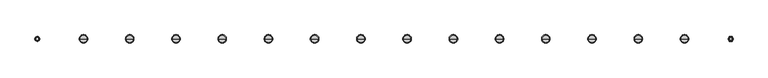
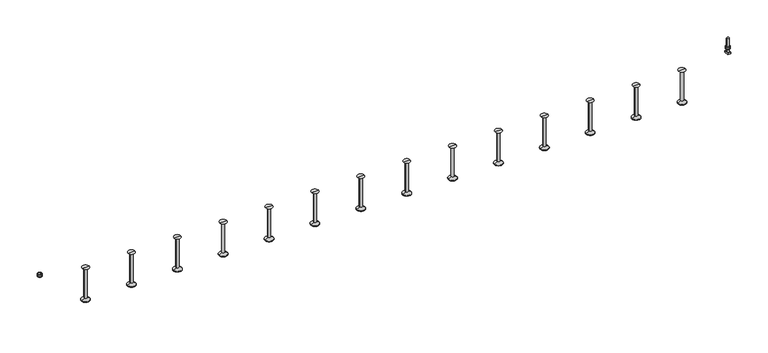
"""IFC4 building model written with IfcOpenShell, lengths in millimetres: fastener geometry, JXA(-PC) JORDAHL® toothed channels : JXA(-PC) L=3000 mm."""

from ifc_helpers import new_model, si_unit, point, frame, frame_2d, origin, place, context, project, spatial, polyline, circle_curve, trimmed, segment, composite_curve, outline, extrude, source, transform, mapped, element, save
from ifc_brep_helpers import plane_surface, cylinder_surface, revolved_surface, advanced_brep


def fastener_173d111a(model_context):
    return source(origin(), model_context, "Body", "SolidModel", [
        advanced_brep(
        [(2769.6666667, 0.0, -20.0), (2784.1666667, 0.0, -20.0), (2755.1666667, 0.0, -20.0), (2751.6666667, 0.0, -166.0), (2787.6666667, 0.0, -166.0), (2769.6666667, 0.0, -166.0), (2751.6666667, 0.0, -164.0), (2787.6666667, 0.0, -164.0), (2763.6666667, 0.0, -157.0717968), (2775.6666667, 0.0, -157.0717968), (2763.6666667, 0.0, -22.5), (2775.6666667, 0.0, -22.5)],
        [
            (0, 1),
            (1, 2, circle_curve(frame((2769.6666667, 0.0, -20.0), z_axis=(0.0, 0.0, 1.0), x_axis=(1.0, 0.0, 0.0)), 14.5)),
            (2, 0),
            (2, 1, circle_curve(frame((2769.6666667, 0.0, -20.0), z_axis=(0.0, 0.0, 1.0), x_axis=(1.0, 0.0, 0.0)), 14.5)),
            (3, 4, circle_curve(frame((2769.6666667, 0.0, -166.0), z_axis=(0.0, 0.0, -1.0), x_axis=(1.0, 0.0, 0.0)), 18.0)),
            (4, 5),
            (5, 3),
            (4, 3, circle_curve(frame((2769.6666667, 0.0, -166.0), z_axis=(0.0, 0.0, -1.0), x_axis=(1.0, 0.0, 0.0)), 18.0)),
            (6, 7, circle_curve(frame((2769.6666667, 0.0, -164.0), z_axis=(0.0, 0.0, -1.0), x_axis=(1.0, 0.0, 0.0)), 18.0)),
            (7, 4),
            (3, 6),
            (7, 6, circle_curve(frame((2769.6666667, 0.0, -164.0), z_axis=(0.0, 0.0, -1.0), x_axis=(1.0, 0.0, 0.0)), 18.0)),
            (8, 9, circle_curve(frame((2769.6666667, 0.0, -157.0717968), z_axis=(0.0, 0.0, -1.0), x_axis=(1.0, 0.0, 0.0)), 6.0)),
            (9, 7),
            (6, 8),
            (9, 8, circle_curve(frame((2769.6666667, 0.0, -157.0717968), z_axis=(0.0, 0.0, -1.0), x_axis=(1.0, 0.0, 0.0)), 6.0)),
            (10, 11, circle_curve(frame((2769.6666667, 0.0, -22.5), z_axis=(0.0, 0.0, -1.0), x_axis=(1.0, 0.0, 0.0)), 6.0)),
            (11, 9),
            (8, 10),
            (11, 10, circle_curve(frame((2769.6666667, 0.0, -22.5), z_axis=(0.0, 0.0, -1.0), x_axis=(1.0, 0.0, 0.0)), 6.0)),
            (1, 11),
            (10, 2),
        ],
        [
            plane_surface(frame((2769.6666667, 0.0, -20.0), z_axis=(0.0, 0.0, 1.0), x_axis=(1.0, 0.0, 0.0))),
            plane_surface(frame((2769.6666667, 0.0, -166.0), z_axis=(0.0, 0.0, -1.0), x_axis=(1.0, 0.0, 0.0))),
            cylinder_surface(frame((2769.6666667, 0.0, 2214.3150031), z_axis=(0.0, 0.0, 1.0), x_axis=(1.0, 0.0, 0.0)), 18.0),
            revolved_surface(polyline([(2787.6666667, 0.0, -164.0), (2775.6666667, 0.0, -157.0717968)]), (2769.6666667, 0.0, 2214.3150031), (0.0, 0.0, 1.0)),
            cylinder_surface(frame((2769.6666667, 0.0, 2214.3150031), z_axis=(0.0, 0.0, 1.0), x_axis=(1.0, 0.0, 0.0)), 6.0),
            revolved_surface(polyline([(2775.6666667, 0.0, -22.5), (2784.1666667, 0.0, -20.0)]), (2769.6666667, 0.0, 2214.3150031), (0.0, 0.0, 1.0)),
        ],
        [
            (0, [[1, 2, 3]]),
            (0, [[-3, 4, -1]]),
            (1, [[5, 6, 7]]),
            (1, [[8, -7, -6]]),
            (2, [[9, 10, -5, 11]]),
            (2, [[12, -11, -8, -10]]),
            (3, [[13, 14, -9, 15]]),
            (3, [[16, -15, -12, -14]]),
            (4, [[17, 18, -13, 19]]),
            (4, [[20, -19, -16, -18]]),
            (5, [[-2, 21, -17, 22]]),
            (5, [[-4, -22, -20, -21]]),
        ],
    ),
        advanced_brep(
        [(2574.3333333, 0.0, -20.0), (2588.8333333, 0.0, -20.0), (2559.8333333, 0.0, -20.0), (2556.3333333, 0.0, -166.0), (2592.3333333, 0.0, -166.0), (2574.3333333, 0.0, -166.0), (2556.3333333, 0.0, -164.0), (2592.3333333, 0.0, -164.0), (2568.3333333, 0.0, -157.0717968), (2580.3333333, 0.0, -157.0717968), (2568.3333333, 0.0, -22.5), (2580.3333333, 0.0, -22.5)],
        [
            (0, 1),
            (1, 2, circle_curve(frame((2574.3333333, 0.0, -20.0), z_axis=(0.0, 0.0, 1.0), x_axis=(1.0, 0.0, 0.0)), 14.5)),
            (2, 0),
            (2, 1, circle_curve(frame((2574.3333333, 0.0, -20.0), z_axis=(0.0, 0.0, 1.0), x_axis=(1.0, 0.0, 0.0)), 14.5)),
            (3, 4, circle_curve(frame((2574.3333333, 0.0, -166.0), z_axis=(0.0, 0.0, -1.0), x_axis=(1.0, 0.0, 0.0)), 18.0)),
            (4, 5),
            (5, 3),
            (4, 3, circle_curve(frame((2574.3333333, 0.0, -166.0), z_axis=(0.0, 0.0, -1.0), x_axis=(1.0, 0.0, 0.0)), 18.0)),
            (6, 7, circle_curve(frame((2574.3333333, 0.0, -164.0), z_axis=(0.0, 0.0, -1.0), x_axis=(1.0, 0.0, 0.0)), 18.0)),
            (7, 4),
            (3, 6),
            (7, 6, circle_curve(frame((2574.3333333, 0.0, -164.0), z_axis=(0.0, 0.0, -1.0), x_axis=(1.0, 0.0, 0.0)), 18.0)),
            (8, 9, circle_curve(frame((2574.3333333, 0.0, -157.0717968), z_axis=(0.0, 0.0, -1.0), x_axis=(1.0, 0.0, 0.0)), 6.0)),
            (9, 7),
            (6, 8),
            (9, 8, circle_curve(frame((2574.3333333, 0.0, -157.0717968), z_axis=(0.0, 0.0, -1.0), x_axis=(1.0, 0.0, 0.0)), 6.0)),
            (10, 11, circle_curve(frame((2574.3333333, 0.0, -22.5), z_axis=(0.0, 0.0, -1.0), x_axis=(1.0, 0.0, 0.0)), 6.0)),
            (11, 9),
            (8, 10),
            (11, 10, circle_curve(frame((2574.3333333, 0.0, -22.5), z_axis=(0.0, 0.0, -1.0), x_axis=(1.0, 0.0, 0.0)), 6.0)),
            (1, 11),
            (10, 2),
        ],
        [
            plane_surface(frame((2574.3333333, 0.0, -20.0), z_axis=(0.0, 0.0, 1.0), x_axis=(1.0, 0.0, 0.0))),
            plane_surface(frame((2574.3333333, 0.0, -166.0), z_axis=(0.0, 0.0, -1.0), x_axis=(1.0, 0.0, 0.0))),
            cylinder_surface(frame((2574.3333333, 0.0, 2214.3150031), z_axis=(0.0, 0.0, 1.0), x_axis=(1.0, 0.0, 0.0)), 18.0),
            revolved_surface(polyline([(2592.3333333, 0.0, -164.0), (2580.3333333, 0.0, -157.0717968)]), (2574.3333333, 0.0, 2214.3150031), (0.0, 0.0, 1.0)),
            cylinder_surface(frame((2574.3333333, 0.0, 2214.3150031), z_axis=(0.0, 0.0, 1.0), x_axis=(1.0, 0.0, 0.0)), 6.0),
            revolved_surface(polyline([(2580.3333333, 0.0, -22.5), (2588.8333333, 0.0, -20.0)]), (2574.3333333, 0.0, 2214.3150031), (0.0, 0.0, 1.0)),
        ],
        [
            (0, [[1, 2, 3]]),
            (0, [[-3, 4, -1]]),
            (1, [[5, 6, 7]]),
            (1, [[8, -7, -6]]),
            (2, [[9, 10, -5, 11]]),
            (2, [[12, -11, -8, -10]]),
            (3, [[13, 14, -9, 15]]),
            (3, [[16, -15, -12, -14]]),
            (4, [[17, 18, -13, 19]]),
            (4, [[20, -19, -16, -18]]),
            (5, [[-2, 21, -17, 22]]),
            (5, [[-4, -22, -20, -21]]),
        ],
    ),
        advanced_brep(
        [(2379.0, 0.0, -20.0), (2393.5, 0.0, -20.0), (2364.5, 0.0, -20.0), (2361.0, 0.0, -166.0), (2397.0, 0.0, -166.0), (2379.0, 0.0, -166.0), (2361.0, 0.0, -164.0), (2397.0, 0.0, -164.0), (2373.0, 0.0, -157.0717968), (2385.0, 0.0, -157.0717968), (2373.0, 0.0, -22.5), (2385.0, 0.0, -22.5)],
        [
            (0, 1),
            (1, 2, circle_curve(frame((2379.0, 0.0, -20.0), z_axis=(0.0, 0.0, 1.0), x_axis=(1.0, 0.0, 0.0)), 14.5)),
            (2, 0),
            (2, 1, circle_curve(frame((2379.0, 0.0, -20.0), z_axis=(0.0, 0.0, 1.0), x_axis=(1.0, 0.0, 0.0)), 14.5)),
            (3, 4, circle_curve(frame((2379.0, 0.0, -166.0), z_axis=(0.0, 0.0, -1.0), x_axis=(1.0, 0.0, 0.0)), 18.0)),
            (4, 5),
            (5, 3),
            (4, 3, circle_curve(frame((2379.0, 0.0, -166.0), z_axis=(0.0, 0.0, -1.0), x_axis=(1.0, 0.0, 0.0)), 18.0)),
            (6, 7, circle_curve(frame((2379.0, 0.0, -164.0), z_axis=(0.0, 0.0, -1.0), x_axis=(1.0, 0.0, 0.0)), 18.0)),
            (7, 4),
            (3, 6),
            (7, 6, circle_curve(frame((2379.0, 0.0, -164.0), z_axis=(0.0, 0.0, -1.0), x_axis=(1.0, 0.0, 0.0)), 18.0)),
            (8, 9, circle_curve(frame((2379.0, 0.0, -157.0717968), z_axis=(0.0, 0.0, -1.0), x_axis=(1.0, 0.0, 0.0)), 6.0)),
            (9, 7),
            (6, 8),
            (9, 8, circle_curve(frame((2379.0, 0.0, -157.0717968), z_axis=(0.0, 0.0, -1.0), x_axis=(1.0, 0.0, 0.0)), 6.0)),
            (10, 11, circle_curve(frame((2379.0, 0.0, -22.5), z_axis=(0.0, 0.0, -1.0), x_axis=(1.0, 0.0, 0.0)), 6.0)),
            (11, 9),
            (8, 10),
            (11, 10, circle_curve(frame((2379.0, 0.0, -22.5), z_axis=(0.0, 0.0, -1.0), x_axis=(1.0, 0.0, 0.0)), 6.0)),
            (1, 11),
            (10, 2),
        ],
        [
            plane_surface(frame((2379.0, 0.0, -20.0), z_axis=(0.0, 0.0, 1.0), x_axis=(1.0, 0.0, 0.0))),
            plane_surface(frame((2379.0, 0.0, -166.0), z_axis=(0.0, 0.0, -1.0), x_axis=(1.0, 0.0, 0.0))),
            cylinder_surface(frame((2379.0, 0.0, 2214.3150031), z_axis=(0.0, 0.0, 1.0), x_axis=(1.0, 0.0, 0.0)), 18.0),
            revolved_surface(polyline([(2397.0, 0.0, -164.0), (2385.0, 0.0, -157.0717968)]), (2379.0, 0.0, 2214.3150031), (0.0, 0.0, 1.0)),
            cylinder_surface(frame((2379.0, 0.0, 2214.3150031), z_axis=(0.0, 0.0, 1.0), x_axis=(1.0, 0.0, 0.0)), 6.0),
            revolved_surface(polyline([(2385.0, 0.0, -22.5), (2393.5, 0.0, -20.0)]), (2379.0, 0.0, 2214.3150031), (0.0, 0.0, 1.0)),
        ],
        [
            (0, [[1, 2, 3]]),
            (0, [[-3, 4, -1]]),
            (1, [[5, 6, 7]]),
            (1, [[8, -7, -6]]),
            (2, [[9, 10, -5, 11]]),
            (2, [[12, -11, -8, -10]]),
            (3, [[13, 14, -9, 15]]),
            (3, [[16, -15, -12, -14]]),
            (4, [[17, 18, -13, 19]]),
            (4, [[20, -19, -16, -18]]),
            (5, [[-2, 21, -17, 22]]),
            (5, [[-4, -22, -20, -21]]),
        ],
    ),
        advanced_brep(
        [(2183.6666667, 0.0, -20.0), (2198.1666667, 0.0, -20.0), (2169.1666667, 0.0, -20.0), (2165.6666667, 0.0, -166.0), (2201.6666667, 0.0, -166.0), (2183.6666667, 0.0, -166.0), (2165.6666667, 0.0, -164.0), (2201.6666667, 0.0, -164.0), (2177.6666667, 0.0, -157.0717968), (2189.6666667, 0.0, -157.0717968), (2177.6666667, 0.0, -22.5), (2189.6666667, 0.0, -22.5)],
        [
            (0, 1),
            (1, 2, circle_curve(frame((2183.6666667, 0.0, -20.0), z_axis=(0.0, 0.0, 1.0), x_axis=(1.0, 0.0, 0.0)), 14.5)),
            (2, 0),
            (2, 1, circle_curve(frame((2183.6666667, 0.0, -20.0), z_axis=(0.0, 0.0, 1.0), x_axis=(1.0, 0.0, 0.0)), 14.5)),
            (3, 4, circle_curve(frame((2183.6666667, 0.0, -166.0), z_axis=(0.0, 0.0, -1.0), x_axis=(1.0, 0.0, 0.0)), 18.0)),
            (4, 5),
            (5, 3),
            (4, 3, circle_curve(frame((2183.6666667, 0.0, -166.0), z_axis=(0.0, 0.0, -1.0), x_axis=(1.0, 0.0, 0.0)), 18.0)),
            (6, 7, circle_curve(frame((2183.6666667, 0.0, -164.0), z_axis=(0.0, 0.0, -1.0), x_axis=(1.0, 0.0, 0.0)), 18.0)),
            (7, 4),
            (3, 6),
            (7, 6, circle_curve(frame((2183.6666667, 0.0, -164.0), z_axis=(0.0, 0.0, -1.0), x_axis=(1.0, 0.0, 0.0)), 18.0)),
            (8, 9, circle_curve(frame((2183.6666667, 0.0, -157.0717968), z_axis=(0.0, 0.0, -1.0), x_axis=(1.0, 0.0, 0.0)), 6.0)),
            (9, 7),
            (6, 8),
            (9, 8, circle_curve(frame((2183.6666667, 0.0, -157.0717968), z_axis=(0.0, 0.0, -1.0), x_axis=(1.0, 0.0, 0.0)), 6.0)),
            (10, 11, circle_curve(frame((2183.6666667, 0.0, -22.5), z_axis=(0.0, 0.0, -1.0), x_axis=(1.0, 0.0, 0.0)), 6.0)),
            (11, 9),
            (8, 10),
            (11, 10, circle_curve(frame((2183.6666667, 0.0, -22.5), z_axis=(0.0, 0.0, -1.0), x_axis=(1.0, 0.0, 0.0)), 6.0)),
            (1, 11),
            (10, 2),
        ],
        [
            plane_surface(frame((2183.6666667, 0.0, -20.0), z_axis=(0.0, 0.0, 1.0), x_axis=(1.0, 0.0, 0.0))),
            plane_surface(frame((2183.6666667, 0.0, -166.0), z_axis=(0.0, 0.0, -1.0), x_axis=(1.0, 0.0, 0.0))),
            cylinder_surface(frame((2183.6666667, 0.0, 2214.3150031), z_axis=(0.0, 0.0, 1.0), x_axis=(1.0, 0.0, 0.0)), 18.0),
            revolved_surface(polyline([(2201.6666667, 0.0, -164.0), (2189.6666667, 0.0, -157.0717968)]), (2183.6666667, 0.0, 2214.3150031), (0.0, 0.0, 1.0)),
            cylinder_surface(frame((2183.6666667, 0.0, 2214.3150031), z_axis=(0.0, 0.0, 1.0), x_axis=(1.0, 0.0, 0.0)), 6.0),
            revolved_surface(polyline([(2189.6666667, 0.0, -22.5), (2198.1666667, 0.0, -20.0)]), (2183.6666667, 0.0, 2214.3150031), (0.0, 0.0, 1.0)),
        ],
        [
            (0, [[1, 2, 3]]),
            (0, [[-3, 4, -1]]),
            (1, [[5, 6, 7]]),
            (1, [[8, -7, -6]]),
            (2, [[9, 10, -5, 11]]),
            (2, [[12, -11, -8, -10]]),
            (3, [[13, 14, -9, 15]]),
            (3, [[16, -15, -12, -14]]),
            (4, [[17, 18, -13, 19]]),
            (4, [[20, -19, -16, -18]]),
            (5, [[-2, 21, -17, 22]]),
            (5, [[-4, -22, -20, -21]]),
        ],
    ),
        advanced_brep(
        [(1988.3333333, 0.0, -20.0), (2002.8333333, 0.0, -20.0), (1973.8333333, 0.0, -20.0), (1970.3333333, 0.0, -166.0), (2006.3333333, 0.0, -166.0), (1988.3333333, 0.0, -166.0), (1970.3333333, 0.0, -164.0), (2006.3333333, 0.0, -164.0), (1982.3333333, 0.0, -157.0717968), (1994.3333333, 0.0, -157.0717968), (1982.3333333, 0.0, -22.5), (1994.3333333, 0.0, -22.5)],
        [
            (0, 1),
            (1, 2, circle_curve(frame((1988.3333333, 0.0, -20.0), z_axis=(0.0, 0.0, 1.0), x_axis=(1.0, 0.0, 0.0)), 14.5)),
            (2, 0),
            (2, 1, circle_curve(frame((1988.3333333, 0.0, -20.0), z_axis=(0.0, 0.0, 1.0), x_axis=(1.0, 0.0, 0.0)), 14.5)),
            (3, 4, circle_curve(frame((1988.3333333, 0.0, -166.0), z_axis=(0.0, 0.0, -1.0), x_axis=(1.0, 0.0, 0.0)), 18.0)),
            (4, 5),
            (5, 3),
            (4, 3, circle_curve(frame((1988.3333333, 0.0, -166.0), z_axis=(0.0, 0.0, -1.0), x_axis=(1.0, 0.0, 0.0)), 18.0)),
            (6, 7, circle_curve(frame((1988.3333333, 0.0, -164.0), z_axis=(0.0, 0.0, -1.0), x_axis=(1.0, 0.0, 0.0)), 18.0)),
            (7, 4),
            (3, 6),
            (7, 6, circle_curve(frame((1988.3333333, 0.0, -164.0), z_axis=(0.0, 0.0, -1.0), x_axis=(1.0, 0.0, 0.0)), 18.0)),
            (8, 9, circle_curve(frame((1988.3333333, 0.0, -157.0717968), z_axis=(0.0, 0.0, -1.0), x_axis=(1.0, 0.0, 0.0)), 6.0)),
            (9, 7),
            (6, 8),
            (9, 8, circle_curve(frame((1988.3333333, 0.0, -157.0717968), z_axis=(0.0, 0.0, -1.0), x_axis=(1.0, 0.0, 0.0)), 6.0)),
            (10, 11, circle_curve(frame((1988.3333333, 0.0, -22.5), z_axis=(0.0, 0.0, -1.0), x_axis=(1.0, 0.0, 0.0)), 6.0)),
            (11, 9),
            (8, 10),
            (11, 10, circle_curve(frame((1988.3333333, 0.0, -22.5), z_axis=(0.0, 0.0, -1.0), x_axis=(1.0, 0.0, 0.0)), 6.0)),
            (1, 11),
            (10, 2),
        ],
        [
            plane_surface(frame((1988.3333333, 0.0, -20.0), z_axis=(0.0, 0.0, 1.0), x_axis=(1.0, 0.0, 0.0))),
            plane_surface(frame((1988.3333333, 0.0, -166.0), z_axis=(0.0, 0.0, -1.0), x_axis=(1.0, 0.0, 0.0))),
            cylinder_surface(frame((1988.3333333, 0.0, 2214.3150031), z_axis=(0.0, 0.0, 1.0), x_axis=(1.0, 0.0, 0.0)), 18.0),
            revolved_surface(polyline([(2006.3333333, 0.0, -164.0), (1994.3333333, 0.0, -157.0717968)]), (1988.3333333, 0.0, 2214.3150031), (0.0, 0.0, 1.0)),
            cylinder_surface(frame((1988.3333333, 0.0, 2214.3150031), z_axis=(0.0, 0.0, 1.0), x_axis=(1.0, 0.0, 0.0)), 6.0),
            revolved_surface(polyline([(1994.3333333, 0.0, -22.5), (2002.8333333, 0.0, -20.0)]), (1988.3333333, 0.0, 2214.3150031), (0.0, 0.0, 1.0)),
        ],
        [
            (0, [[1, 2, 3]]),
            (0, [[-3, 4, -1]]),
            (1, [[5, 6, 7]]),
            (1, [[8, -7, -6]]),
            (2, [[9, 10, -5, 11]]),
            (2, [[12, -11, -8, -10]]),
            (3, [[13, 14, -9, 15]]),
            (3, [[16, -15, -12, -14]]),
            (4, [[17, 18, -13, 19]]),
            (4, [[20, -19, -16, -18]]),
            (5, [[-2, 21, -17, 22]]),
            (5, [[-4, -22, -20, -21]]),
        ],
    ),
        advanced_brep(
        [(1793.0, 0.0, -20.0), (1807.5, 0.0, -20.0), (1778.5, 0.0, -20.0), (1775.0, 0.0, -166.0), (1811.0, 0.0, -166.0), (1793.0, 0.0, -166.0), (1775.0, 0.0, -164.0), (1811.0, 0.0, -164.0), (1787.0, 0.0, -157.0717968), (1799.0, 0.0, -157.0717968), (1787.0, 0.0, -22.5), (1799.0, 0.0, -22.5)],
        [
            (0, 1),
            (1, 2, circle_curve(frame((1793.0, 0.0, -20.0), z_axis=(0.0, 0.0, 1.0), x_axis=(1.0, 0.0, 0.0)), 14.5)),
            (2, 0),
            (2, 1, circle_curve(frame((1793.0, 0.0, -20.0), z_axis=(0.0, 0.0, 1.0), x_axis=(1.0, 0.0, 0.0)), 14.5)),
            (3, 4, circle_curve(frame((1793.0, 0.0, -166.0), z_axis=(0.0, 0.0, -1.0), x_axis=(1.0, 0.0, 0.0)), 18.0)),
            (4, 5),
            (5, 3),
            (4, 3, circle_curve(frame((1793.0, 0.0, -166.0), z_axis=(0.0, 0.0, -1.0), x_axis=(1.0, 0.0, 0.0)), 18.0)),
            (6, 7, circle_curve(frame((1793.0, 0.0, -164.0), z_axis=(0.0, 0.0, -1.0), x_axis=(1.0, 0.0, 0.0)), 18.0)),
            (7, 4),
            (3, 6),
            (7, 6, circle_curve(frame((1793.0, 0.0, -164.0), z_axis=(0.0, 0.0, -1.0), x_axis=(1.0, 0.0, 0.0)), 18.0)),
            (8, 9, circle_curve(frame((1793.0, 0.0, -157.0717968), z_axis=(0.0, 0.0, -1.0), x_axis=(1.0, 0.0, 0.0)), 6.0)),
            (9, 7),
            (6, 8),
            (9, 8, circle_curve(frame((1793.0, 0.0, -157.0717968), z_axis=(0.0, 0.0, -1.0), x_axis=(1.0, 0.0, 0.0)), 6.0)),
            (10, 11, circle_curve(frame((1793.0, 0.0, -22.5), z_axis=(0.0, 0.0, -1.0), x_axis=(1.0, 0.0, 0.0)), 6.0)),
            (11, 9),
            (8, 10),
            (11, 10, circle_curve(frame((1793.0, 0.0, -22.5), z_axis=(0.0, 0.0, -1.0), x_axis=(1.0, 0.0, 0.0)), 6.0)),
            (1, 11),
            (10, 2),
        ],
        [
            plane_surface(frame((1793.0, 0.0, -20.0), z_axis=(0.0, 0.0, 1.0), x_axis=(1.0, 0.0, 0.0))),
            plane_surface(frame((1793.0, 0.0, -166.0), z_axis=(0.0, 0.0, -1.0), x_axis=(1.0, 0.0, 0.0))),
            cylinder_surface(frame((1793.0, 0.0, 2214.3150031), z_axis=(0.0, 0.0, 1.0), x_axis=(1.0, 0.0, 0.0)), 18.0),
            revolved_surface(polyline([(1811.0, 0.0, -164.0), (1799.0, 0.0, -157.0717968)]), (1793.0, 0.0, 2214.3150031), (0.0, 0.0, 1.0)),
            cylinder_surface(frame((1793.0, 0.0, 2214.3150031), z_axis=(0.0, 0.0, 1.0), x_axis=(1.0, 0.0, 0.0)), 6.0),
            revolved_surface(polyline([(1799.0, 0.0, -22.5), (1807.5, 0.0, -20.0)]), (1793.0, 0.0, 2214.3150031), (0.0, 0.0, 1.0)),
        ],
        [
            (0, [[1, 2, 3]]),
            (0, [[-3, 4, -1]]),
            (1, [[5, 6, 7]]),
            (1, [[8, -7, -6]]),
            (2, [[9, 10, -5, 11]]),
            (2, [[12, -11, -8, -10]]),
            (3, [[13, 14, -9, 15]]),
            (3, [[16, -15, -12, -14]]),
            (4, [[17, 18, -13, 19]]),
            (4, [[20, -19, -16, -18]]),
            (5, [[-2, 21, -17, 22]]),
            (5, [[-4, -22, -20, -21]]),
        ],
    ),
        advanced_brep(
        [(1597.6666667, 0.0, -20.0), (1612.1666667, 0.0, -20.0), (1583.1666667, 0.0, -20.0), (1579.6666667, 0.0, -166.0), (1615.6666667, 0.0, -166.0), (1597.6666667, 0.0, -166.0), (1579.6666667, 0.0, -164.0), (1615.6666667, 0.0, -164.0), (1591.6666667, 0.0, -157.0717968), (1603.6666667, 0.0, -157.0717968), (1591.6666667, 0.0, -22.5), (1603.6666667, 0.0, -22.5)],
        [
            (0, 1),
            (1, 2, circle_curve(frame((1597.6666667, 0.0, -20.0), z_axis=(0.0, 0.0, 1.0), x_axis=(1.0, 0.0, 0.0)), 14.5)),
            (2, 0),
            (2, 1, circle_curve(frame((1597.6666667, 0.0, -20.0), z_axis=(0.0, 0.0, 1.0), x_axis=(1.0, 0.0, 0.0)), 14.5)),
            (3, 4, circle_curve(frame((1597.6666667, 0.0, -166.0), z_axis=(0.0, 0.0, -1.0), x_axis=(1.0, 0.0, 0.0)), 18.0)),
            (4, 5),
            (5, 3),
            (4, 3, circle_curve(frame((1597.6666667, 0.0, -166.0), z_axis=(0.0, 0.0, -1.0), x_axis=(1.0, 0.0, 0.0)), 18.0)),
            (6, 7, circle_curve(frame((1597.6666667, 0.0, -164.0), z_axis=(0.0, 0.0, -1.0), x_axis=(1.0, 0.0, 0.0)), 18.0)),
            (7, 4),
            (3, 6),
            (7, 6, circle_curve(frame((1597.6666667, 0.0, -164.0), z_axis=(0.0, 0.0, -1.0), x_axis=(1.0, 0.0, 0.0)), 18.0)),
            (8, 9, circle_curve(frame((1597.6666667, 0.0, -157.0717968), z_axis=(0.0, 0.0, -1.0), x_axis=(1.0, 0.0, 0.0)), 6.0)),
            (9, 7),
            (6, 8),
            (9, 8, circle_curve(frame((1597.6666667, 0.0, -157.0717968), z_axis=(0.0, 0.0, -1.0), x_axis=(1.0, 0.0, 0.0)), 6.0)),
            (10, 11, circle_curve(frame((1597.6666667, 0.0, -22.5), z_axis=(0.0, 0.0, -1.0), x_axis=(1.0, 0.0, 0.0)), 6.0)),
            (11, 9),
            (8, 10),
            (11, 10, circle_curve(frame((1597.6666667, 0.0, -22.5), z_axis=(0.0, 0.0, -1.0), x_axis=(1.0, 0.0, 0.0)), 6.0)),
            (1, 11),
            (10, 2),
        ],
        [
            plane_surface(frame((1597.6666667, 0.0, -20.0), z_axis=(0.0, 0.0, 1.0), x_axis=(1.0, 0.0, 0.0))),
            plane_surface(frame((1597.6666667, 0.0, -166.0), z_axis=(0.0, 0.0, -1.0), x_axis=(1.0, 0.0, 0.0))),
            cylinder_surface(frame((1597.6666667, 0.0, 2214.3150031), z_axis=(0.0, 0.0, 1.0), x_axis=(1.0, 0.0, 0.0)), 18.0),
            revolved_surface(polyline([(1615.6666667, 0.0, -164.0), (1603.6666667, 0.0, -157.0717968)]), (1597.6666667, 0.0, 2214.3150031), (0.0, 0.0, 1.0)),
            cylinder_surface(frame((1597.6666667, 0.0, 2214.3150031), z_axis=(0.0, 0.0, 1.0), x_axis=(1.0, 0.0, 0.0)), 6.0),
            revolved_surface(polyline([(1603.6666667, 0.0, -22.5), (1612.1666667, 0.0, -20.0)]), (1597.6666667, 0.0, 2214.3150031), (0.0, 0.0, 1.0)),
        ],
        [
            (0, [[1, 2, 3]]),
            (0, [[-3, 4, -1]]),
            (1, [[5, 6, 7]]),
            (1, [[8, -7, -6]]),
            (2, [[9, 10, -5, 11]]),
            (2, [[12, -11, -8, -10]]),
            (3, [[13, 14, -9, 15]]),
            (3, [[16, -15, -12, -14]]),
            (4, [[17, 18, -13, 19]]),
            (4, [[20, -19, -16, -18]]),
            (5, [[-2, 21, -17, 22]]),
            (5, [[-4, -22, -20, -21]]),
        ],
    ),
        advanced_brep(
        [(1402.3333333, 0.0, -20.0), (1416.8333333, 0.0, -20.0), (1387.8333333, 0.0, -20.0), (1384.3333333, 0.0, -166.0), (1420.3333333, 0.0, -166.0), (1402.3333333, 0.0, -166.0), (1384.3333333, 0.0, -164.0), (1420.3333333, 0.0, -164.0), (1396.3333333, 0.0, -157.0717968), (1408.3333333, 0.0, -157.0717968), (1396.3333333, 0.0, -22.5), (1408.3333333, 0.0, -22.5)],
        [
            (0, 1),
            (1, 2, circle_curve(frame((1402.3333333, 0.0, -20.0), z_axis=(0.0, 0.0, 1.0), x_axis=(1.0, 0.0, 0.0)), 14.5)),
            (2, 0),
            (2, 1, circle_curve(frame((1402.3333333, 0.0, -20.0), z_axis=(0.0, 0.0, 1.0), x_axis=(1.0, 0.0, 0.0)), 14.5)),
            (3, 4, circle_curve(frame((1402.3333333, 0.0, -166.0), z_axis=(0.0, 0.0, -1.0), x_axis=(1.0, 0.0, 0.0)), 18.0)),
            (4, 5),
            (5, 3),
            (4, 3, circle_curve(frame((1402.3333333, 0.0, -166.0), z_axis=(0.0, 0.0, -1.0), x_axis=(1.0, 0.0, 0.0)), 18.0)),
            (6, 7, circle_curve(frame((1402.3333333, 0.0, -164.0), z_axis=(0.0, 0.0, -1.0), x_axis=(1.0, 0.0, 0.0)), 18.0)),
            (7, 4),
            (3, 6),
            (7, 6, circle_curve(frame((1402.3333333, 0.0, -164.0), z_axis=(0.0, 0.0, -1.0), x_axis=(1.0, 0.0, 0.0)), 18.0)),
            (8, 9, circle_curve(frame((1402.3333333, 0.0, -157.0717968), z_axis=(0.0, 0.0, -1.0), x_axis=(1.0, 0.0, 0.0)), 6.0)),
            (9, 7),
            (6, 8),
            (9, 8, circle_curve(frame((1402.3333333, 0.0, -157.0717968), z_axis=(0.0, 0.0, -1.0), x_axis=(1.0, 0.0, 0.0)), 6.0)),
            (10, 11, circle_curve(frame((1402.3333333, 0.0, -22.5), z_axis=(0.0, 0.0, -1.0), x_axis=(1.0, 0.0, 0.0)), 6.0)),
            (11, 9),
            (8, 10),
            (11, 10, circle_curve(frame((1402.3333333, 0.0, -22.5), z_axis=(0.0, 0.0, -1.0), x_axis=(1.0, 0.0, 0.0)), 6.0)),
            (1, 11),
            (10, 2),
        ],
        [
            plane_surface(frame((1402.3333333, 0.0, -20.0), z_axis=(0.0, 0.0, 1.0), x_axis=(1.0, 0.0, 0.0))),
            plane_surface(frame((1402.3333333, 0.0, -166.0), z_axis=(0.0, 0.0, -1.0), x_axis=(1.0, 0.0, 0.0))),
            cylinder_surface(frame((1402.3333333, 0.0, 2214.3150031), z_axis=(0.0, 0.0, 1.0), x_axis=(1.0, 0.0, 0.0)), 18.0),
            revolved_surface(polyline([(1420.3333333, 0.0, -164.0), (1408.3333333, 0.0, -157.0717968)]), (1402.3333333, 0.0, 2214.3150031), (0.0, 0.0, 1.0)),
            cylinder_surface(frame((1402.3333333, 0.0, 2214.3150031), z_axis=(0.0, 0.0, 1.0), x_axis=(1.0, 0.0, 0.0)), 6.0),
            revolved_surface(polyline([(1408.3333333, 0.0, -22.5), (1416.8333333, 0.0, -20.0)]), (1402.3333333, 0.0, 2214.3150031), (0.0, 0.0, 1.0)),
        ],
        [
            (0, [[1, 2, 3]]),
            (0, [[-3, 4, -1]]),
            (1, [[5, 6, 7]]),
            (1, [[8, -7, -6]]),
            (2, [[9, 10, -5, 11]]),
            (2, [[12, -11, -8, -10]]),
            (3, [[13, 14, -9, 15]]),
            (3, [[16, -15, -12, -14]]),
            (4, [[17, 18, -13, 19]]),
            (4, [[20, -19, -16, -18]]),
            (5, [[-2, 21, -17, 22]]),
            (5, [[-4, -22, -20, -21]]),
        ],
    ),
        advanced_brep(
        [(1207.0, 0.0, -20.0), (1221.5, 0.0, -20.0), (1192.5, 0.0, -20.0), (1189.0, 0.0, -166.0), (1225.0, 0.0, -166.0), (1207.0, 0.0, -166.0), (1189.0, 0.0, -164.0), (1225.0, 0.0, -164.0), (1201.0, 0.0, -157.0717968), (1213.0, 0.0, -157.0717968), (1201.0, 0.0, -22.5), (1213.0, 0.0, -22.5)],
        [
            (0, 1),
            (1, 2, circle_curve(frame((1207.0, 0.0, -20.0), z_axis=(0.0, 0.0, 1.0), x_axis=(1.0, 0.0, 0.0)), 14.5)),
            (2, 0),
            (2, 1, circle_curve(frame((1207.0, 0.0, -20.0), z_axis=(0.0, 0.0, 1.0), x_axis=(1.0, 0.0, 0.0)), 14.5)),
            (3, 4, circle_curve(frame((1207.0, 0.0, -166.0), z_axis=(0.0, 0.0, -1.0), x_axis=(1.0, 0.0, 0.0)), 18.0)),
            (4, 5),
            (5, 3),
            (4, 3, circle_curve(frame((1207.0, 0.0, -166.0), z_axis=(0.0, 0.0, -1.0), x_axis=(1.0, 0.0, 0.0)), 18.0)),
            (6, 7, circle_curve(frame((1207.0, 0.0, -164.0), z_axis=(0.0, 0.0, -1.0), x_axis=(1.0, 0.0, 0.0)), 18.0)),
            (7, 4),
            (3, 6),
            (7, 6, circle_curve(frame((1207.0, 0.0, -164.0), z_axis=(0.0, 0.0, -1.0), x_axis=(1.0, 0.0, 0.0)), 18.0)),
            (8, 9, circle_curve(frame((1207.0, 0.0, -157.0717968), z_axis=(0.0, 0.0, -1.0), x_axis=(1.0, 0.0, 0.0)), 6.0)),
            (9, 7),
            (6, 8),
            (9, 8, circle_curve(frame((1207.0, 0.0, -157.0717968), z_axis=(0.0, 0.0, -1.0), x_axis=(1.0, 0.0, 0.0)), 6.0)),
            (10, 11, circle_curve(frame((1207.0, 0.0, -22.5), z_axis=(0.0, 0.0, -1.0), x_axis=(1.0, 0.0, 0.0)), 6.0)),
            (11, 9),
            (8, 10),
            (11, 10, circle_curve(frame((1207.0, 0.0, -22.5), z_axis=(0.0, 0.0, -1.0), x_axis=(1.0, 0.0, 0.0)), 6.0)),
            (1, 11),
            (10, 2),
        ],
        [
            plane_surface(frame((1207.0, 0.0, -20.0), z_axis=(0.0, 0.0, 1.0), x_axis=(1.0, 0.0, 0.0))),
            plane_surface(frame((1207.0, 0.0, -166.0), z_axis=(0.0, 0.0, -1.0), x_axis=(1.0, 0.0, 0.0))),
            cylinder_surface(frame((1207.0, 0.0, 2214.3150031), z_axis=(0.0, 0.0, 1.0), x_axis=(1.0, 0.0, 0.0)), 18.0),
            revolved_surface(polyline([(1225.0, 0.0, -164.0), (1213.0, 0.0, -157.0717968)]), (1207.0, 0.0, 2214.3150031), (0.0, 0.0, 1.0)),
            cylinder_surface(frame((1207.0, 0.0, 2214.3150031), z_axis=(0.0, 0.0, 1.0), x_axis=(1.0, 0.0, 0.0)), 6.0),
            revolved_surface(polyline([(1213.0, 0.0, -22.5), (1221.5, 0.0, -20.0)]), (1207.0, 0.0, 2214.3150031), (0.0, 0.0, 1.0)),
        ],
        [
            (0, [[1, 2, 3]]),
            (0, [[-3, 4, -1]]),
            (1, [[5, 6, 7]]),
            (1, [[8, -7, -6]]),
            (2, [[9, 10, -5, 11]]),
            (2, [[12, -11, -8, -10]]),
            (3, [[13, 14, -9, 15]]),
            (3, [[16, -15, -12, -14]]),
            (4, [[17, 18, -13, 19]]),
            (4, [[20, -19, -16, -18]]),
            (5, [[-2, 21, -17, 22]]),
            (5, [[-4, -22, -20, -21]]),
        ],
    ),
        advanced_brep(
        [(1011.6666667, 0.0, -20.0), (1026.1666667, 0.0, -20.0), (997.1666667, 0.0, -20.0), (993.6666667, 0.0, -166.0), (1029.6666667, 0.0, -166.0), (1011.6666667, 0.0, -166.0), (993.6666667, 0.0, -164.0), (1029.6666667, 0.0, -164.0), (1005.6666667, 0.0, -157.0717968), (1017.6666667, 0.0, -157.0717968), (1005.6666667, 0.0, -22.5), (1017.6666667, 0.0, -22.5)],
        [
            (0, 1),
            (1, 2, circle_curve(frame((1011.6666667, 0.0, -20.0), z_axis=(0.0, 0.0, 1.0), x_axis=(1.0, 0.0, 0.0)), 14.5)),
            (2, 0),
            (2, 1, circle_curve(frame((1011.6666667, 0.0, -20.0), z_axis=(0.0, 0.0, 1.0), x_axis=(1.0, 0.0, 0.0)), 14.5)),
            (3, 4, circle_curve(frame((1011.6666667, 0.0, -166.0), z_axis=(0.0, 0.0, -1.0), x_axis=(1.0, 0.0, 0.0)), 18.0)),
            (4, 5),
            (5, 3),
            (4, 3, circle_curve(frame((1011.6666667, 0.0, -166.0), z_axis=(0.0, 0.0, -1.0), x_axis=(1.0, 0.0, 0.0)), 18.0)),
            (6, 7, circle_curve(frame((1011.6666667, 0.0, -164.0), z_axis=(0.0, 0.0, -1.0), x_axis=(1.0, 0.0, 0.0)), 18.0)),
            (7, 4),
            (3, 6),
            (7, 6, circle_curve(frame((1011.6666667, 0.0, -164.0), z_axis=(0.0, 0.0, -1.0), x_axis=(1.0, 0.0, 0.0)), 18.0)),
            (8, 9, circle_curve(frame((1011.6666667, 0.0, -157.0717968), z_axis=(0.0, 0.0, -1.0), x_axis=(1.0, 0.0, 0.0)), 6.0)),
            (9, 7),
            (6, 8),
            (9, 8, circle_curve(frame((1011.6666667, 0.0, -157.0717968), z_axis=(0.0, 0.0, -1.0), x_axis=(1.0, 0.0, 0.0)), 6.0)),
            (10, 11, circle_curve(frame((1011.6666667, 0.0, -22.5), z_axis=(0.0, 0.0, -1.0), x_axis=(1.0, 0.0, 0.0)), 6.0)),
            (11, 9),
            (8, 10),
            (11, 10, circle_curve(frame((1011.6666667, 0.0, -22.5), z_axis=(0.0, 0.0, -1.0), x_axis=(1.0, 0.0, 0.0)), 6.0)),
            (1, 11),
            (10, 2),
        ],
        [
            plane_surface(frame((1011.6666667, 0.0, -20.0), z_axis=(0.0, 0.0, 1.0), x_axis=(1.0, 0.0, 0.0))),
            plane_surface(frame((1011.6666667, 0.0, -166.0), z_axis=(0.0, 0.0, -1.0), x_axis=(1.0, 0.0, 0.0))),
            cylinder_surface(frame((1011.6666667, 0.0, 2214.3150031), z_axis=(0.0, 0.0, 1.0), x_axis=(1.0, 0.0, 0.0)), 18.0),
            revolved_surface(polyline([(1029.6666667, 0.0, -164.0), (1017.6666667, 0.0, -157.0717968)]), (1011.6666667, 0.0, 2214.3150031), (0.0, 0.0, 1.0)),
            cylinder_surface(frame((1011.6666667, 0.0, 2214.3150031), z_axis=(0.0, 0.0, 1.0), x_axis=(1.0, 0.0, 0.0)), 6.0),
            revolved_surface(polyline([(1017.6666667, 0.0, -22.5), (1026.1666667, 0.0, -20.0)]), (1011.6666667, 0.0, 2214.3150031), (0.0, 0.0, 1.0)),
        ],
        [
            (0, [[1, 2, 3]]),
            (0, [[-3, 4, -1]]),
            (1, [[5, 6, 7]]),
            (1, [[8, -7, -6]]),
            (2, [[9, 10, -5, 11]]),
            (2, [[12, -11, -8, -10]]),
            (3, [[13, 14, -9, 15]]),
            (3, [[16, -15, -12, -14]]),
            (4, [[17, 18, -13, 19]]),
            (4, [[20, -19, -16, -18]]),
            (5, [[-2, 21, -17, 22]]),
            (5, [[-4, -22, -20, -21]]),
        ],
    ),
        advanced_brep(
        [(816.3333333, 0.0, -20.0), (830.8333333, 0.0, -20.0), (801.8333333, 0.0, -20.0), (798.3333333, 0.0, -166.0), (834.3333333, 0.0, -166.0), (816.3333333, 0.0, -166.0), (798.3333333, 0.0, -164.0), (834.3333333, 0.0, -164.0), (810.3333333, 0.0, -157.0717968), (822.3333333, 0.0, -157.0717968), (810.3333333, 0.0, -22.5), (822.3333333, 0.0, -22.5)],
        [
            (0, 1),
            (1, 2, circle_curve(frame((816.3333333, 0.0, -20.0), z_axis=(0.0, 0.0, 1.0), x_axis=(1.0, 0.0, 0.0)), 14.5)),
            (2, 0),
            (2, 1, circle_curve(frame((816.3333333, 0.0, -20.0), z_axis=(0.0, 0.0, 1.0), x_axis=(1.0, 0.0, 0.0)), 14.5)),
            (3, 4, circle_curve(frame((816.3333333, 0.0, -166.0), z_axis=(0.0, 0.0, -1.0), x_axis=(1.0, 0.0, 0.0)), 18.0)),
            (4, 5),
            (5, 3),
            (4, 3, circle_curve(frame((816.3333333, 0.0, -166.0), z_axis=(0.0, 0.0, -1.0), x_axis=(1.0, 0.0, 0.0)), 18.0)),
            (6, 7, circle_curve(frame((816.3333333, 0.0, -164.0), z_axis=(0.0, 0.0, -1.0), x_axis=(1.0, 0.0, 0.0)), 18.0)),
            (7, 4),
            (3, 6),
            (7, 6, circle_curve(frame((816.3333333, 0.0, -164.0), z_axis=(0.0, 0.0, -1.0), x_axis=(1.0, 0.0, 0.0)), 18.0)),
            (8, 9, circle_curve(frame((816.3333333, 0.0, -157.0717968), z_axis=(0.0, 0.0, -1.0), x_axis=(1.0, 0.0, 0.0)), 6.0)),
            (9, 7),
            (6, 8),
            (9, 8, circle_curve(frame((816.3333333, 0.0, -157.0717968), z_axis=(0.0, 0.0, -1.0), x_axis=(1.0, 0.0, 0.0)), 6.0)),
            (10, 11, circle_curve(frame((816.3333333, 0.0, -22.5), z_axis=(0.0, 0.0, -1.0), x_axis=(1.0, 0.0, 0.0)), 6.0)),
            (11, 9),
            (8, 10),
            (11, 10, circle_curve(frame((816.3333333, 0.0, -22.5), z_axis=(0.0, 0.0, -1.0), x_axis=(1.0, 0.0, 0.0)), 6.0)),
            (1, 11),
            (10, 2),
        ],
        [
            plane_surface(frame((816.3333333, 0.0, -20.0), z_axis=(0.0, 0.0, 1.0), x_axis=(1.0, 0.0, 0.0))),
            plane_surface(frame((816.3333333, 0.0, -166.0), z_axis=(0.0, 0.0, -1.0), x_axis=(1.0, 0.0, 0.0))),
            cylinder_surface(frame((816.3333333, 0.0, 2214.3150031), z_axis=(0.0, 0.0, 1.0), x_axis=(1.0, 0.0, 0.0)), 18.0),
            revolved_surface(polyline([(834.3333333, 0.0, -164.0), (822.3333333, 0.0, -157.0717968)]), (816.3333333, 0.0, 2214.3150031), (0.0, 0.0, 1.0)),
            cylinder_surface(frame((816.3333333, 0.0, 2214.3150031), z_axis=(0.0, 0.0, 1.0), x_axis=(1.0, 0.0, 0.0)), 6.0),
            revolved_surface(polyline([(822.3333333, 0.0, -22.5), (830.8333333, 0.0, -20.0)]), (816.3333333, 0.0, 2214.3150031), (0.0, 0.0, 1.0)),
        ],
        [
            (0, [[1, 2, 3]]),
            (0, [[-3, 4, -1]]),
            (1, [[5, 6, 7]]),
            (1, [[8, -7, -6]]),
            (2, [[9, 10, -5, 11]]),
            (2, [[12, -11, -8, -10]]),
            (3, [[13, 14, -9, 15]]),
            (3, [[16, -15, -12, -14]]),
            (4, [[17, 18, -13, 19]]),
            (4, [[20, -19, -16, -18]]),
            (5, [[-2, 21, -17, 22]]),
            (5, [[-4, -22, -20, -21]]),
        ],
    ),
        advanced_brep(
        [(621.0, 0.0, -20.0), (635.5, 0.0, -20.0), (606.5, 0.0, -20.0), (603.0, 0.0, -166.0), (639.0, 0.0, -166.0), (621.0, 0.0, -166.0), (603.0, 0.0, -164.0), (639.0, 0.0, -164.0), (615.0, 0.0, -157.0717968), (627.0, 0.0, -157.0717968), (615.0, 0.0, -22.5), (627.0, 0.0, -22.5)],
        [
            (0, 1),
            (1, 2, circle_curve(frame((621.0, 0.0, -20.0), z_axis=(0.0, 0.0, 1.0), x_axis=(1.0, 0.0, 0.0)), 14.5)),
            (2, 0),
            (2, 1, circle_curve(frame((621.0, 0.0, -20.0), z_axis=(0.0, 0.0, 1.0), x_axis=(1.0, 0.0, 0.0)), 14.5)),
            (3, 4, circle_curve(frame((621.0, 0.0, -166.0), z_axis=(0.0, 0.0, -1.0), x_axis=(1.0, 0.0, 0.0)), 18.0)),
            (4, 5),
            (5, 3),
            (4, 3, circle_curve(frame((621.0, 0.0, -166.0), z_axis=(0.0, 0.0, -1.0), x_axis=(1.0, 0.0, 0.0)), 18.0)),
            (6, 7, circle_curve(frame((621.0, 0.0, -164.0), z_axis=(0.0, 0.0, -1.0), x_axis=(1.0, 0.0, 0.0)), 18.0)),
            (7, 4),
            (3, 6),
            (7, 6, circle_curve(frame((621.0, 0.0, -164.0), z_axis=(0.0, 0.0, -1.0), x_axis=(1.0, 0.0, 0.0)), 18.0)),
            (8, 9, circle_curve(frame((621.0, 0.0, -157.0717968), z_axis=(0.0, 0.0, -1.0), x_axis=(1.0, 0.0, 0.0)), 6.0)),
            (9, 7),
            (6, 8),
            (9, 8, circle_curve(frame((621.0, 0.0, -157.0717968), z_axis=(0.0, 0.0, -1.0), x_axis=(1.0, 0.0, 0.0)), 6.0)),
            (10, 11, circle_curve(frame((621.0, 0.0, -22.5), z_axis=(0.0, 0.0, -1.0), x_axis=(1.0, 0.0, 0.0)), 6.0)),
            (11, 9),
            (8, 10),
            (11, 10, circle_curve(frame((621.0, 0.0, -22.5), z_axis=(0.0, 0.0, -1.0), x_axis=(1.0, 0.0, 0.0)), 6.0)),
            (1, 11),
            (10, 2),
        ],
        [
            plane_surface(frame((621.0, 0.0, -20.0), z_axis=(0.0, 0.0, 1.0), x_axis=(1.0, 0.0, 0.0))),
            plane_surface(frame((621.0, 0.0, -166.0), z_axis=(0.0, 0.0, -1.0), x_axis=(1.0, 0.0, 0.0))),
            cylinder_surface(frame((621.0, 0.0, 2214.3150031), z_axis=(0.0, 0.0, 1.0), x_axis=(1.0, 0.0, 0.0)), 18.0),
            revolved_surface(polyline([(639.0, 0.0, -164.0), (627.0, 0.0, -157.0717968)]), (621.0, 0.0, 2214.3150031), (0.0, 0.0, 1.0)),
            cylinder_surface(frame((621.0, 0.0, 2214.3150031), z_axis=(0.0, 0.0, 1.0), x_axis=(1.0, 0.0, 0.0)), 6.0),
            revolved_surface(polyline([(627.0, 0.0, -22.5), (635.5, 0.0, -20.0)]), (621.0, 0.0, 2214.3150031), (0.0, 0.0, 1.0)),
        ],
        [
            (0, [[1, 2, 3]]),
            (0, [[-3, 4, -1]]),
            (1, [[5, 6, 7]]),
            (1, [[8, -7, -6]]),
            (2, [[9, 10, -5, 11]]),
            (2, [[12, -11, -8, -10]]),
            (3, [[13, 14, -9, 15]]),
            (3, [[16, -15, -12, -14]]),
            (4, [[17, 18, -13, 19]]),
            (4, [[20, -19, -16, -18]]),
            (5, [[-2, 21, -17, 22]]),
            (5, [[-4, -22, -20, -21]]),
        ],
    ),
        advanced_brep(
        [(425.6666667, 0.0, -20.0), (440.1666667, 0.0, -20.0), (411.1666667, 0.0, -20.0), (407.6666667, 0.0, -166.0), (443.6666667, 0.0, -166.0), (425.6666667, 0.0, -166.0), (407.6666667, 0.0, -164.0), (443.6666667, 0.0, -164.0), (419.6666667, 0.0, -157.0717968), (431.6666667, 0.0, -157.0717968), (419.6666667, 0.0, -22.5), (431.6666667, 0.0, -22.5)],
        [
            (0, 1),
            (1, 2, circle_curve(frame((425.6666667, 0.0, -20.0), z_axis=(0.0, 0.0, 1.0), x_axis=(1.0, 0.0, 0.0)), 14.5)),
            (2, 0),
            (2, 1, circle_curve(frame((425.6666667, 0.0, -20.0), z_axis=(0.0, 0.0, 1.0), x_axis=(1.0, 0.0, 0.0)), 14.5)),
            (3, 4, circle_curve(frame((425.6666667, 0.0, -166.0), z_axis=(0.0, 0.0, -1.0), x_axis=(1.0, 0.0, 0.0)), 18.0)),
            (4, 5),
            (5, 3),
            (4, 3, circle_curve(frame((425.6666667, 0.0, -166.0), z_axis=(0.0, 0.0, -1.0), x_axis=(1.0, 0.0, 0.0)), 18.0)),
            (6, 7, circle_curve(frame((425.6666667, 0.0, -164.0), z_axis=(0.0, 0.0, -1.0), x_axis=(1.0, 0.0, 0.0)), 18.0)),
            (7, 4),
            (3, 6),
            (7, 6, circle_curve(frame((425.6666667, 0.0, -164.0), z_axis=(0.0, 0.0, -1.0), x_axis=(1.0, 0.0, 0.0)), 18.0)),
            (8, 9, circle_curve(frame((425.6666667, 0.0, -157.0717968), z_axis=(0.0, 0.0, -1.0), x_axis=(1.0, 0.0, 0.0)), 6.0)),
            (9, 7),
            (6, 8),
            (9, 8, circle_curve(frame((425.6666667, 0.0, -157.0717968), z_axis=(0.0, 0.0, -1.0), x_axis=(1.0, 0.0, 0.0)), 6.0)),
            (10, 11, circle_curve(frame((425.6666667, 0.0, -22.5), z_axis=(0.0, 0.0, -1.0), x_axis=(1.0, 0.0, 0.0)), 6.0)),
            (11, 9),
            (8, 10),
            (11, 10, circle_curve(frame((425.6666667, 0.0, -22.5), z_axis=(0.0, 0.0, -1.0), x_axis=(1.0, 0.0, 0.0)), 6.0)),
            (1, 11),
            (10, 2),
        ],
        [
            plane_surface(frame((425.6666667, 0.0, -20.0), z_axis=(0.0, 0.0, 1.0), x_axis=(1.0, 0.0, 0.0))),
            plane_surface(frame((425.6666667, 0.0, -166.0), z_axis=(0.0, 0.0, -1.0), x_axis=(1.0, 0.0, 0.0))),
            cylinder_surface(frame((425.6666667, 0.0, 2214.3150031), z_axis=(0.0, 0.0, 1.0), x_axis=(1.0, 0.0, 0.0)), 18.0),
            revolved_surface(polyline([(443.6666667, 0.0, -164.0), (431.6666667, 0.0, -157.0717968)]), (425.6666667, 0.0, 2214.3150031), (0.0, 0.0, 1.0)),
            cylinder_surface(frame((425.6666667, 0.0, 2214.3150031), z_axis=(0.0, 0.0, 1.0), x_axis=(1.0, 0.0, 0.0)), 6.0),
            revolved_surface(polyline([(431.6666667, 0.0, -22.5), (440.1666667, 0.0, -20.0)]), (425.6666667, 0.0, 2214.3150031), (0.0, 0.0, 1.0)),
        ],
        [
            (0, [[1, 2, 3]]),
            (0, [[-3, 4, -1]]),
            (1, [[5, 6, 7]]),
            (1, [[8, -7, -6]]),
            (2, [[9, 10, -5, 11]]),
            (2, [[12, -11, -8, -10]]),
            (3, [[13, 14, -9, 15]]),
            (3, [[16, -15, -12, -14]]),
            (4, [[17, 18, -13, 19]]),
            (4, [[20, -19, -16, -18]]),
            (5, [[-2, 21, -17, 22]]),
            (5, [[-4, -22, -20, -21]]),
        ],
    ),
        advanced_brep(
        [(230.3333333, 0.0, -20.0), (244.8333333, 0.0, -20.0), (215.8333333, 0.0, -20.0), (212.3333333, 0.0, -166.0), (248.3333333, 0.0, -166.0), (230.3333333, 0.0, -166.0), (212.3333333, 0.0, -164.0), (248.3333333, 0.0, -164.0), (224.3333333, 0.0, -157.0717968), (236.3333333, 0.0, -157.0717968), (224.3333333, 0.0, -22.5), (236.3333333, 0.0, -22.5)],
        [
            (0, 1),
            (1, 2, circle_curve(frame((230.3333333, 0.0, -20.0), z_axis=(0.0, 0.0, 1.0), x_axis=(1.0, 0.0, 0.0)), 14.5)),
            (2, 0),
            (2, 1, circle_curve(frame((230.3333333, 0.0, -20.0), z_axis=(0.0, 0.0, 1.0), x_axis=(1.0, 0.0, 0.0)), 14.5)),
            (3, 4, circle_curve(frame((230.3333333, 0.0, -166.0), z_axis=(0.0, 0.0, -1.0), x_axis=(1.0, 0.0, 0.0)), 18.0)),
            (4, 5),
            (5, 3),
            (4, 3, circle_curve(frame((230.3333333, 0.0, -166.0), z_axis=(0.0, 0.0, -1.0), x_axis=(1.0, 0.0, 0.0)), 18.0)),
            (6, 7, circle_curve(frame((230.3333333, 0.0, -164.0), z_axis=(0.0, 0.0, -1.0), x_axis=(1.0, 0.0, 0.0)), 18.0)),
            (7, 4),
            (3, 6),
            (7, 6, circle_curve(frame((230.3333333, 0.0, -164.0), z_axis=(0.0, 0.0, -1.0), x_axis=(1.0, 0.0, 0.0)), 18.0)),
            (8, 9, circle_curve(frame((230.3333333, 0.0, -157.0717968), z_axis=(0.0, 0.0, -1.0), x_axis=(1.0, 0.0, 0.0)), 6.0)),
            (9, 7),
            (6, 8),
            (9, 8, circle_curve(frame((230.3333333, 0.0, -157.0717968), z_axis=(0.0, 0.0, -1.0), x_axis=(1.0, 0.0, 0.0)), 6.0)),
            (10, 11, circle_curve(frame((230.3333333, 0.0, -22.5), z_axis=(0.0, 0.0, -1.0), x_axis=(1.0, 0.0, 0.0)), 6.0)),
            (11, 9),
            (8, 10),
            (11, 10, circle_curve(frame((230.3333333, 0.0, -22.5), z_axis=(0.0, 0.0, -1.0), x_axis=(1.0, 0.0, 0.0)), 6.0)),
            (1, 11),
            (10, 2),
        ],
        [
            plane_surface(frame((230.3333333, 0.0, -20.0), z_axis=(0.0, 0.0, 1.0), x_axis=(1.0, 0.0, 0.0))),
            plane_surface(frame((230.3333333, 0.0, -166.0), z_axis=(0.0, 0.0, -1.0), x_axis=(1.0, 0.0, 0.0))),
            cylinder_surface(frame((230.3333333, 0.0, 2214.3150031), z_axis=(0.0, 0.0, 1.0), x_axis=(1.0, 0.0, 0.0)), 18.0),
            revolved_surface(polyline([(248.3333333, 0.0, -164.0), (236.3333333, 0.0, -157.0717968)]), (230.3333333, 0.0, 2214.3150031), (0.0, 0.0, 1.0)),
            cylinder_surface(frame((230.3333333, 0.0, 2214.3150031), z_axis=(0.0, 0.0, 1.0), x_axis=(1.0, 0.0, 0.0)), 6.0),
            revolved_surface(polyline([(236.3333333, 0.0, -22.5), (244.8333333, 0.0, -20.0)]), (230.3333333, 0.0, 2214.3150031), (0.0, 0.0, 1.0)),
        ],
        [
            (0, [[1, 2, 3]]),
            (0, [[-3, 4, -1]]),
            (1, [[5, 6, 7]]),
            (1, [[8, -7, -6]]),
            (2, [[9, 10, -5, 11]]),
            (2, [[12, -11, -8, -10]]),
            (3, [[13, 14, -9, 15]]),
            (3, [[16, -15, -12, -14]]),
            (4, [[17, 18, -13, 19]]),
            (4, [[20, -19, -16, -18]]),
            (5, [[-2, 21, -17, 22]]),
            (5, [[-4, -22, -20, -21]]),
        ],
    ),
        extrude(outline(composite_curve([segment(trimmed(circle_curve(frame_2d((2965.0, 0.0)), 10.0), [point((2955.0, 0.0))], [point((2975.0, 0.0))], False, "CARTESIAN"), True, "CONTINUOUS"), segment(trimmed(circle_curve(frame_2d((2965.0, 0.0)), 10.0), [point((2975.0, 0.0))], [point((2955.0, 0.0))], False, "CARTESIAN"), True, "CONTINUOUS")], self_intersect=False), holes=[composite_curve([segment(trimmed(circle_curve(frame_2d((2965.0, 0.0)), 5.5), [point((2959.5, 0.0))], [point((2970.5, 0.0))], True, "CARTESIAN"), True, "CONTINUOUS"), segment(trimmed(circle_curve(frame_2d((2965.0, 0.0)), 5.5), [point((2970.5, 0.0))], [point((2959.5, 0.0))], True, "CARTESIAN"), True, "CONTINUOUS")], self_intersect=False)]), frame((0.0, 0.0, 10.0), z_axis=(0.0, 0.0, 1.0), x_axis=(1.0, 0.0, 0.0)), (0.0, 0.0, 1.0), 2.0),
        extrude(outline(polyline([(2965.0, 9.8149546), (2973.5, 4.9074773), (2973.5, -4.9074773), (2965.0, -9.8149546), (2956.5, -4.9074773), (2956.5, 4.9074773), (2965.0, 9.8149546)]), holes=[composite_curve([segment(trimmed(circle_curve(frame_2d((2965.0, 0.0)), 5.0), [point((2960.0, 0.0))], [point((2970.0, 0.0))], True, "CARTESIAN"), True, "CONTINUOUS"), segment(trimmed(circle_curve(frame_2d((2965.0, 0.0)), 5.0), [point((2970.0, 0.0))], [point((2960.0, 0.0))], True, "CARTESIAN"), True, "CONTINUOUS")], self_intersect=False)]), frame((0.0, 0.0, 12.0), z_axis=(0.0, 0.0, 1.0), x_axis=(1.0, 0.0, 0.0)), (0.0, 0.0, 1.0), 8.0),
        advanced_brep(
        [(2971.5, 10.5, -5.0), (2971.5, -10.5, -5.0), (2971.5, -10.5, -12.0), (2971.5, 10.5, -12.0), (2958.5, 10.5, -5.0), (2958.5, 10.5, -12.0), (2958.5, -10.5, -12.0), (2958.5, -10.5, -5.0), (2970.0, 0.0, -5.0), (2960.0, 0.0, -5.0), (2960.0, 0.0, 55.0), (2970.0, 0.0, 55.0)],
        [
            (0, 1),
            (1, 2),
            (2, 3),
            (3, 0),
            (4, 5),
            (5, 6),
            (6, 7),
            (7, 4),
            (0, 4),
            (7, 1),
            (8, 9, circle_curve(frame((2965.0, 0.0, -5.0), z_axis=(0.0, 0.0, -1.0), x_axis=(1.0, 0.0, 0.0)), 5.0)),
            (9, 8, circle_curve(frame((2965.0, 0.0, -5.0), z_axis=(0.0, 0.0, -1.0), x_axis=(1.0, 0.0, 0.0)), 5.0)),
            (6, 2),
            (5, 3),
            (10, 11, circle_curve(frame((2965.0, 0.0, 55.0), z_axis=(0.0, 0.0, 1.0), x_axis=(1.0, 0.0, 0.0)), 5.0)),
            (11, 10, circle_curve(frame((2965.0, 0.0, 55.0), z_axis=(0.0, 0.0, 1.0), x_axis=(1.0, 0.0, 0.0)), 5.0)),
            (10, 9),
            (8, 11),
        ],
        [
            plane_surface(frame((2971.5, -10.5, -5.0), z_axis=(1.0, 0.0, 0.0), x_axis=(0.0, -1.0, 0.0))),
            plane_surface(frame((2958.5, -10.5, -5.0), z_axis=(-1.0, 0.0, 0.0), x_axis=(0.0, 1.0, 0.0))),
            plane_surface(frame((2971.5, 10.5, -5.0), z_axis=(0.0, 0.0, 1.0), x_axis=(-1.0, 0.0, 0.0))),
            plane_surface(frame((2971.5, -10.5, -5.0), z_axis=(0.0, -1.0, 0.0), x_axis=(-1.0, 0.0, 0.0))),
            plane_surface(frame((2971.5, -10.5, -12.0), z_axis=(0.0, 0.0, -1.0), x_axis=(-1.0, 0.0, 0.0))),
            plane_surface(frame((2971.5, 10.5, -12.0), z_axis=(0.0, 1.0, 0.0), x_axis=(-1.0, 0.0, 0.0))),
            plane_surface(frame((2970.0, 0.0, 55.0), z_axis=(0.0, 0.0, 1.0), x_axis=(0.0, 1.0, 0.0))),
            cylinder_surface(frame((2965.0, 0.0, -5.0), z_axis=(0.0, 0.0, 1.0), x_axis=(1.0, 0.0, 0.0)), 5.0),
        ],
        [
            (0, [[1, 2, 3, 4]]),
            (1, [[5, 6, 7, 8]]),
            (2, [[-1, 9, -8, 10], [11, 12]]),
            (3, [[-2, -10, -7, 13]]),
            (4, [[-3, -13, -6, 14]]),
            (5, [[-4, -14, -5, -9]]),
            (6, [[15, 16]]),
            (7, [[-15, 17, -11, 18]]),
            (7, [[-16, -18, -12, -17]]),
        ],
    ),
        extrude(outline(composite_curve([segment(trimmed(circle_curve(frame_2d((35.0, 0.0)), 10.0), [point((25.0, 0.0))], [point((45.0, 0.0))], False, "CARTESIAN"), True, "CONTINUOUS"), segment(trimmed(circle_curve(frame_2d((35.0, 0.0)), 10.0), [point((45.0, 0.0))], [point((25.0, 0.0))], False, "CARTESIAN"), True, "CONTINUOUS")], self_intersect=False), holes=[composite_curve([segment(trimmed(circle_curve(frame_2d((35.0, 0.0)), 5.5), [point((29.5, 0.0))], [point((40.5, 0.0))], True, "CARTESIAN"), True, "CONTINUOUS"), segment(trimmed(circle_curve(frame_2d((35.0, 0.0)), 5.5), [point((40.5, 0.0))], [point((29.5, 0.0))], True, "CARTESIAN"), True, "CONTINUOUS")], self_intersect=False)]), frame((0.0, 0.0, 10.0), z_axis=(0.0, 0.0, 1.0), x_axis=(1.0, 0.0, 0.0)), (0.0, 0.0, 1.0), 2.0),
        extrude(outline(polyline([(35.0, 9.8149546), (43.5, 4.9074773), (43.5, -4.9074773), (35.0, -9.8149546), (26.5, -4.9074773), (26.5, 4.9074773), (35.0, 9.8149546)]), holes=[composite_curve([segment(trimmed(circle_curve(frame_2d((35.0, 0.0)), 5.0), [point((30.0, 0.0))], [point((40.0, 0.0))], True, "CARTESIAN"), True, "CONTINUOUS"), segment(trimmed(circle_curve(frame_2d((35.0, 0.0)), 5.0), [point((40.0, 0.0))], [point((30.0, 0.0))], True, "CARTESIAN"), True, "CONTINUOUS")], self_intersect=False)]), frame((0.0, 0.0, 12.0), z_axis=(0.0, 0.0, 1.0), x_axis=(1.0, 0.0, 0.0)), (0.0, 0.0, 1.0), 8.0),
    ])


if __name__ == "__main__":
    model = new_model("IFC4")
    model_context = context("Model", 3, world=origin())
    ifc_project = project(units=[si_unit("LENGTHUNIT", "METRE", prefix="MILLI")], contexts=[model_context])
    site = spatial("IfcSite", under=ifc_project)
    building = spatial("IfcBuilding", under=site)
    placement = place(None, origin())
    fastener_shape = fastener_173d111a(model_context)
    element("IfcFastener", 1, ObjectType="JXA(-PC) JORDAHL® toothed channels : JXA(-PC) L=3000 mm", at=placement, inside=building, context=model_context, shape_type="MappedRepresentation", body=[
        mapped(fastener_shape, transform((0.0, 0.0, 0.0), x_axis=(1.0, 0.0, 0.0), y_axis=(0.0, 1.0, 0.0), z_axis=(0.0, 0.0, 1.0))),
    ])
    save(model, "model.ifc")
